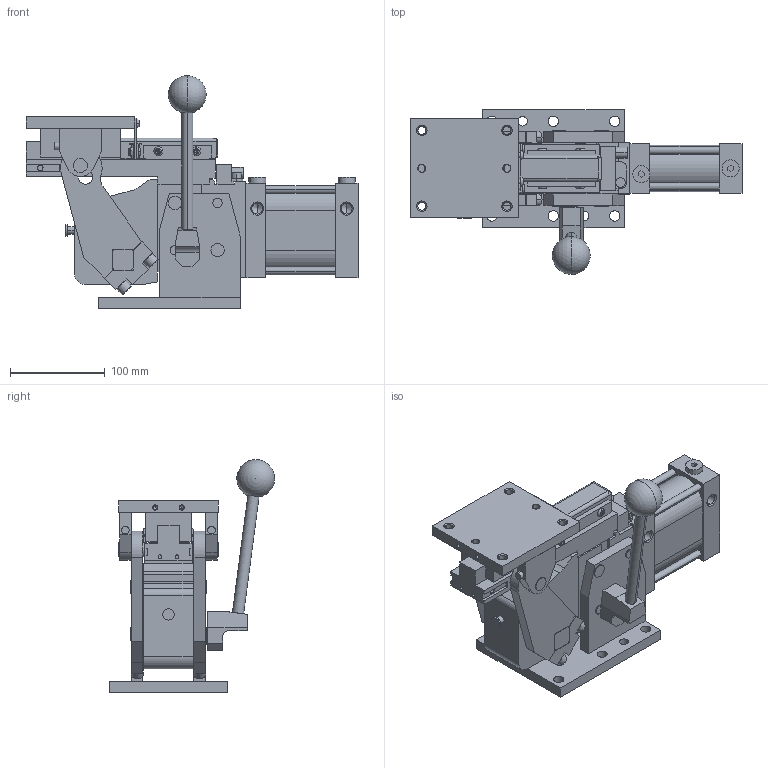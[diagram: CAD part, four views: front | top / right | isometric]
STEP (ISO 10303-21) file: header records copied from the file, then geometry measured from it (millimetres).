
FILE_DESCRIPTION (( 'STEP AP214' ), '1' );
FILE_NAME ('slcpm63_90_xx_la_x_s2.STEP', '2019-09-19T12:57:49', ( '' ), ( '' ), 'SwSTEP 2.0', 'SolidWorks 2019', '' );
FILE_SCHEMA (( 'AUTOMOTIVE_DESIGN' ));
Length unit declared in the file: millimetre
Products named in the file (8): tappo cil G1_4 din908_rondella rame; blocchetto_VEP_0; leva_slcp63; riparo_binario_post_slcp63; piastra_superiore_slcp63; leva_slcpm63; slcpm63_90_xx_x_x; slcpm63_90_xx_la_x_s2
Assembly tree (8 placements, depth 2):
  slcpm63_90_xx_la_x_s2
    slcpm63_90_xx_x_x
    piastra_superiore_slcp63
    leva_slcp63
    blocchetto_VEP_0
    tappo cil G1_4 din908_rondella rame  x2
    leva_slcpm63
    riparo_binario_post_slcp63
Bounding box: 351 x 174.8 x 246.1 mm (x, y, z)
Volume: 2748166.8 mm3; surface area: 382628.3 mm2
Topology: 29 solids, 43 shells, 1094 faces, 2682 edges, 1665 vertices
Faces by surface type: plane 512, cylinder 328, cone 230, torus 22, sphere 2
Entity records: 38198 total; most frequent: CARTESIAN_POINT 6036, DIRECTION 5559, ORIENTED_EDGE 5150, EDGE_CURVE 2575, AXIS2_PLACEMENT_3D 2013, VERTEX_POINT 1642, LINE 1533, VECTOR 1533
